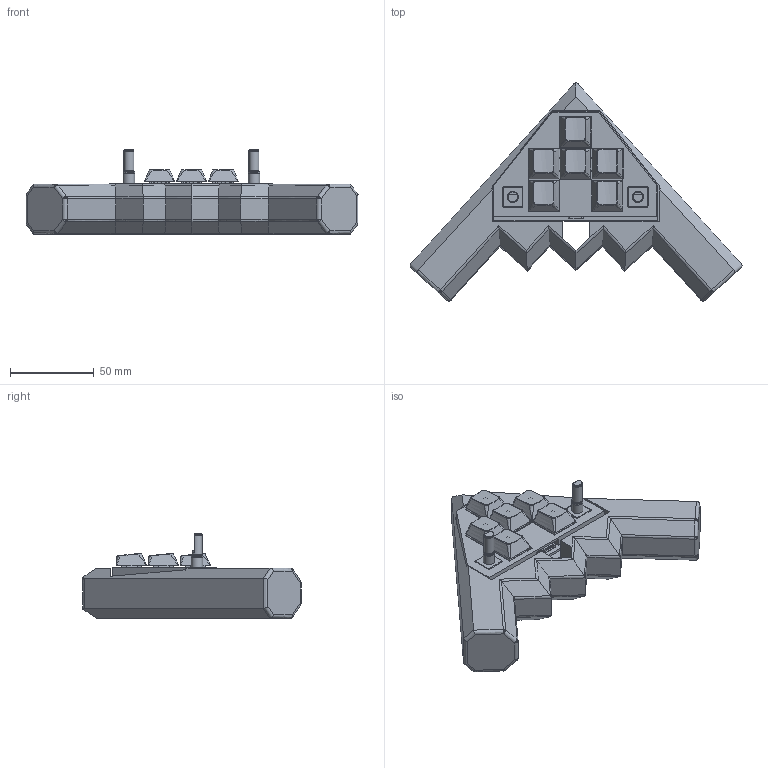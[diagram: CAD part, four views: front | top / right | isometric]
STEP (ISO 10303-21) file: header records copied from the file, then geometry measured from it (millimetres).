
FILE_DESCRIPTION(/* description */ ('STEP AP242 Edition 2','CAx-IF Rec.Pracs.---Representation and Presentation of Product Manufacturing Information (PMI)---4.0---2014-10-13','CAx-IF Rec.Pracs.---3D Tessellated Geometry---0.4---2014-09-14','2;1','CAx-IF Rec.Pracs.---User Defined Attributes---1.5---2016-08-15'),/* implementation_level */ '2;1');
FILE_NAME(/* name */ '6aa16861d6d613a5a8d4fc2c',/* time_stamp */ '2026-09-09T14:08:42Z',/* author */ (''),/* organization */ (''),/* preprocessor_version */ 'ST-DEVELOPER v20',/* originating_system */ 'ONSHAPE BY PTC INC, 1.220',/* authorisation */ ' ');
FILE_SCHEMA (('AP242_MANAGED_MODEL_BASED_3D_ENGINEERING_MIM_LF { 1 0 10303 442 3 1 4 }'));
Products named in the file (69): hackpad_v2 1; D_DO-35_SOD27_P7.62mm_Horizontal (1) <4>; D_DO-35_SOD27_P7.62mm_Horizontal <1>; D_DO-35_SOD27_P7.62mm_Horizontal; keycap <1>; r3_100; keycap <4>; Part 1; keycap <3>; D_DO-35_SOD27_P7.62mm_Horizontal (1) <3>; Part 20; hackpad_v2-unsaved-export-KM3jys_PCB; D_DO-35_SOD27_P7.62mm_Horizontal (1) <1>; keycap <5>; switch <6>; cherry mx v28 <1>; Component2; Component1 <1>; Component1; RotaryEncoder_Alps_EC11E-Switch_Vertical_H20mm <2>; (Unsaved) <1>; (Unsaved); keycap <6>; keycap <2>; D_DO-35_SOD27_P7.62mm_Horizontal (1) <5>; D_DO-35_SOD27_P7.62mm_Horizontal (1) <6>; RotaryEncoder_Alps_EC11E-Switch_Vertical_H20mm <4>; D_DO-35_SOD27_P7.62mm_Horizontal (1) <2>; RotaryEncoder_Alps_EC11E-Switch_Vertical_H20mm <3>; switch <2>; RotaryEncoder_Alps_EC11E-Switch_Vertical_H20mm <1>; switch <4>; Seeeduino XIAO SAMD21 v4 (1) <1>; Seeeduino XIAO SAMD21 v4 <1>; Component1 (1) <1>; switch <1>; switch <3>; switch <5>
Assembly tree (129 placements, depth 5):
  hackpad_v2 1
    D_DO-35_SOD27_P7.62mm_Horizontal (1) <4>
      D_DO-35_SOD27_P7.62mm_Horizontal <1>
        D_DO-35_SOD27_P7.62mm_Horizontal
        D_DO-35_SOD27_P7.62mm_Horizontal
    keycap <1>
      r3_100
    keycap <4>
      r3_100
    Part 1
    keycap <3>
      r3_100
    D_DO-35_SOD27_P7.62mm_Horizontal (1) <3>
      D_DO-35_SOD27_P7.62mm_Horizontal <1>
        D_DO-35_SOD27_P7.62mm_Horizontal
        D_DO-35_SOD27_P7.62mm_Horizontal
    Part 20
    hackpad_v2-unsaved-export-KM3jys_PCB
    D_DO-35_SOD27_P7.62mm_Horizontal (1) <1>
      D_DO-35_SOD27_P7.62mm_Horizontal <1>
        D_DO-35_SOD27_P7.62mm_Horizontal
        D_DO-35_SOD27_P7.62mm_Horizontal
    keycap <5>
      r3_100
    switch <6>
      cherry mx v28 <1>
        Component2
        Component1 <1>
          Component1
          Component1
          Component1
          Component1
          Component1
          Component1
          Component1
    RotaryEncoder_Alps_EC11E-Switch_Vertical_H20mm <2>
      (Unsaved) <1>
        (Unsaved)
        (Unsaved)
    keycap <6>
      r3_100
    keycap <2>
      r3_100
    D_DO-35_SOD27_P7.62mm_Horizontal (1) <5>
      D_DO-35_SOD27_P7.62mm_Horizontal <1>
        D_DO-35_SOD27_P7.62mm_Horizontal
        D_DO-35_SOD27_P7.62mm_Horizontal
    D_DO-35_SOD27_P7.62mm_Horizontal (1) <6>
      D_DO-35_SOD27_P7.62mm_Horizontal <1>
        D_DO-35_SOD27_P7.62mm_Horizontal
        D_DO-35_SOD27_P7.62mm_Horizontal
    RotaryEncoder_Alps_EC11E-Switch_Vertical_H20mm <4>
      (Unsaved) <1>
        (Unsaved)
        (Unsaved)
    D_DO-35_SOD27_P7.62mm_Horizontal (1) <2>
      D_DO-35_SOD27_P7.62mm_Horizontal <1>
        D_DO-35_SOD27_P7.62mm_Horizontal
        D_DO-35_SOD27_P7.62mm_Horizontal
    RotaryEncoder_Alps_EC11E-Switch_Vertical_H20mm <3>
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Bounding box: 198.59 x 130.57 x 50.5 mm (x, y, z)
Volume: 294020.4 mm3; surface area: 82989.2 mm2
Topology: 82 solids, 82 shells, 4085 faces, 10706 edges, 6914 vertices
Faces by surface type: plane 2307, cylinder 744, bspline 509, cone 419, torus 62, sphere 44
Full cylindrical faces by diameter (mm): 0.5 x18, 0.8 x26, 1 x28, 1.2 x1, 1.3 x1, 1.5 x12, 1.6 x12, 1.7 x12, 2 x12, 2.02 x6, 3.85 x6, 4 x6, 5 x4, 6 x10, 6.884 x4
Entity records: 104016 total; most frequent: CARTESIAN_POINT 36274, ORIENTED_EDGE 14576, DIRECTION 10382, EDGE_CURVE 7288, VERTEX_POINT 4861, LINE 3552, VECTOR 3552, AXIS2_PLACEMENT_3D 3415
